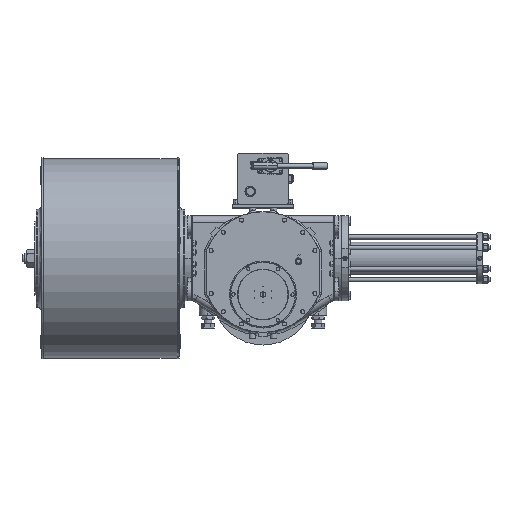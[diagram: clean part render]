
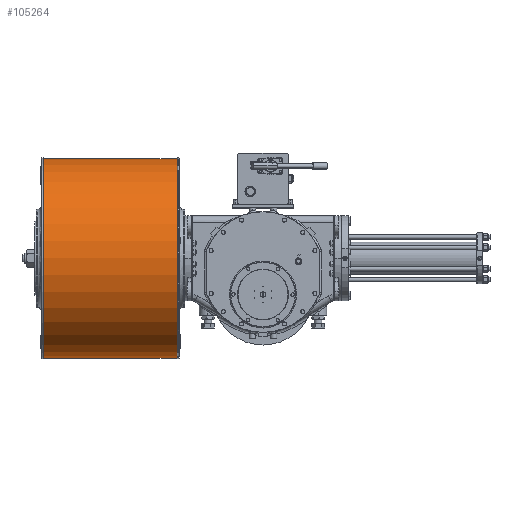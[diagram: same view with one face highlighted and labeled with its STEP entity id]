
A CAD part, top view. The second image highlights one B-rep face of the part: STEP entity #105264.
In plain terms, the highlighted cylindrical face has radius 470 mm (diameter 940 mm), a partial arc.
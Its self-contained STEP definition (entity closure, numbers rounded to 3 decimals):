
#3716 = EDGE_LOOP ( 'NONE', ( #65521, #54441, #32621, #34991 ) ) ;
#4549 = CARTESIAN_POINT ( 'NONE',  ( -405., 171., 138. ) ) ;
#5117 = EDGE_CURVE ( 'NONE', #44284, #62803, #86707, .T. ) ;
#5151 = CARTESIAN_POINT ( 'NONE',  ( -405., -299., 138. ) ) ;
#7156 = CARTESIAN_POINT ( 'NONE',  ( -405., 171., 138. ) ) ;
#11940 = LINE ( 'NONE', #5151, #98958 ) ;
#15024 = CIRCLE ( 'NONE', #69219, 470. ) ;
#16739 = FACE_OUTER_BOUND ( 'NONE', #3716, .T. ) ;
#18583 = DIRECTION ( 'NONE',  ( 1., 0., 0. ) ) ;
#22097 = DIRECTION ( 'NONE',  ( 0., -1., 0. ) ) ;
#26467 = CARTESIAN_POINT ( 'NONE',  ( -1035., 641., 138. ) ) ;
#30307 = VECTOR ( 'NONE', #67561, 1000. ) ;
#30844 = CARTESIAN_POINT ( 'NONE',  ( -1035., -299., 138. ) ) ;
#31586 = VERTEX_POINT ( 'NONE', #26467 ) ;
#32621 = ORIENTED_EDGE ( 'NONE', *, *, #110554, .T. ) ;
#33009 = CARTESIAN_POINT ( 'NONE',  ( -405., 641., 138. ) ) ;
#34991 = ORIENTED_EDGE ( 'NONE', *, *, #49960, .F. ) ;
#41705 = DIRECTION ( 'NONE',  ( -1., 0., 0. ) ) ;
#44284 = VERTEX_POINT ( 'NONE', #78098 ) ;
#49960 = EDGE_CURVE ( 'NONE', #44284, #80475, #11940, .T. ) ;
#53694 = DIRECTION ( 'NONE',  ( 0., -1., 0. ) ) ;
#54087 = AXIS2_PLACEMENT_3D ( 'NONE', #7156, #41705, #76221 ) ;
#54441 = ORIENTED_EDGE ( 'NONE', *, *, #103991, .T. ) ;
#62166 = CARTESIAN_POINT ( 'NONE',  ( -1035., 171., 138. ) ) ;
#62803 = VERTEX_POINT ( 'NONE', #68697 ) ;
#65521 = ORIENTED_EDGE ( 'NONE', *, *, #5117, .T. ) ;
#67164 = CYLINDRICAL_SURFACE ( 'NONE', #54087, 470. ) ;
#67561 = DIRECTION ( 'NONE',  ( -1., 0., 0. ) ) ;
#68697 = CARTESIAN_POINT ( 'NONE',  ( -405., 641., 138. ) ) ;
#69219 = AXIS2_PLACEMENT_3D ( 'NONE', #62166, #18583, #53694 ) ;
#72264 = AXIS2_PLACEMENT_3D ( 'NONE', #4549, #108647, #22097 ) ;
#76221 = DIRECTION ( 'NONE',  ( 0., -1., 0. ) ) ;
#78098 = CARTESIAN_POINT ( 'NONE',  ( -405., -299., 138. ) ) ;
#80475 = VERTEX_POINT ( 'NONE', #30844 ) ;
#81560 = DIRECTION ( 'NONE',  ( -1., 0., 0. ) ) ;
#86707 = CIRCLE ( 'NONE', #72264, 470. ) ;
#98958 = VECTOR ( 'NONE', #81560, 1000. ) ;
#103991 = EDGE_CURVE ( 'NONE', #62803, #31586, #110534, .T. ) ;
#105264 = ADVANCED_FACE ( 'NONE', ( #16739 ), #67164, .T. ) ;
#108647 = DIRECTION ( 'NONE',  ( -1., 0., 0. ) ) ;
#110534 = LINE ( 'NONE', #33009, #30307 ) ;
#110554 = EDGE_CURVE ( 'NONE', #31586, #80475, #15024, .T. ) ;
